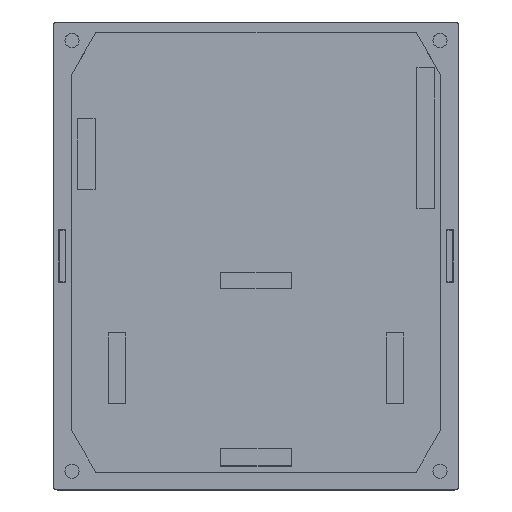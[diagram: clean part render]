
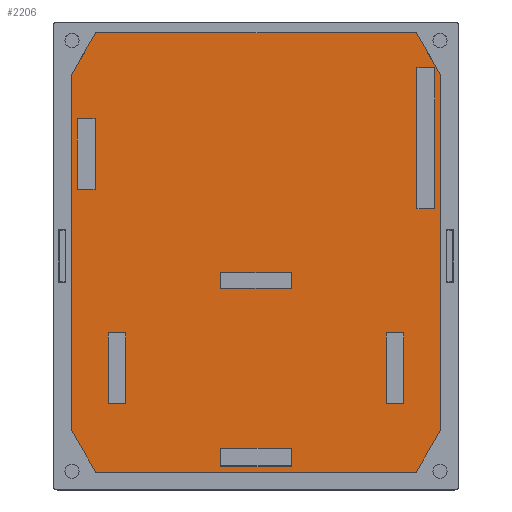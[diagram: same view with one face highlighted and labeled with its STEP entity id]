
A CAD part, top view. The second image highlights one B-rep face of the part: STEP entity #2206.
In plain terms, the highlighted planar face has unit normal (0, 0, 1).
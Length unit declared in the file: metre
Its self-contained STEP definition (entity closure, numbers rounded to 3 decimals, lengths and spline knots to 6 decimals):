
#95=LINE('',#3305,#363);
#103=LINE('',#3322,#371);
#111=LINE('',#3339,#379);
#119=LINE('',#3356,#387);
#127=LINE('',#3373,#395);
#128=LINE('',#3376,#396);
#129=LINE('',#3378,#397);
#130=LINE('',#3380,#398);
#131=LINE('',#3382,#399);
#132=LINE('',#3384,#400);
#133=LINE('',#3386,#401);
#134=LINE('',#3388,#402);
#135=LINE('',#3389,#403);
#136=LINE('',#3392,#404);
#137=LINE('',#3394,#405);
#138=LINE('',#3396,#406);
#139=LINE('',#3397,#407);
#140=LINE('',#3400,#408);
#141=LINE('',#3402,#409);
#142=LINE('',#3404,#410);
#143=LINE('',#3405,#411);
#144=LINE('',#3406,#412);
#145=LINE('',#3407,#413);
#146=LINE('',#3410,#414);
#147=LINE('',#3412,#415);
#148=LINE('',#3414,#416);
#149=LINE('',#3415,#417);
#150=LINE('',#3416,#418);
#151=LINE('',#3417,#419);
#152=LINE('',#3420,#420);
#153=LINE('',#3422,#421);
#154=LINE('',#3424,#422);
#363=VECTOR('',#2645,1.);
#371=VECTOR('',#2655,1.);
#379=VECTOR('',#2665,1.);
#387=VECTOR('',#2675,1.);
#395=VECTOR('',#2685,1.);
#396=VECTOR('',#2686,1.);
#397=VECTOR('',#2687,1.);
#398=VECTOR('',#2688,1.);
#399=VECTOR('',#2689,1.);
#400=VECTOR('',#2690,1.);
#401=VECTOR('',#2691,1.);
#402=VECTOR('',#2692,1.);
#403=VECTOR('',#2693,1.);
#404=VECTOR('',#2694,1.);
#405=VECTOR('',#2695,1.);
#406=VECTOR('',#2696,1.);
#407=VECTOR('',#2697,1.);
#408=VECTOR('',#2698,1.);
#409=VECTOR('',#2699,1.);
#410=VECTOR('',#2700,1.);
#411=VECTOR('',#2701,1.);
#412=VECTOR('',#2702,1.);
#413=VECTOR('',#2703,1.);
#414=VECTOR('',#2704,1.);
#415=VECTOR('',#2705,1.);
#416=VECTOR('',#2706,1.);
#417=VECTOR('',#2707,1.);
#418=VECTOR('',#2708,1.);
#419=VECTOR('',#2709,1.);
#420=VECTOR('',#2710,1.);
#421=VECTOR('',#2711,1.);
#422=VECTOR('',#2712,1.);
#672=ORIENTED_EDGE('',*,*,#1279,.T.);
#673=ORIENTED_EDGE('',*,*,#1280,.T.);
#674=ORIENTED_EDGE('',*,*,#1281,.F.);
#675=ORIENTED_EDGE('',*,*,#1282,.T.);
#676=ORIENTED_EDGE('',*,*,#1283,.F.);
#677=ORIENTED_EDGE('',*,*,#1284,.T.);
#678=ORIENTED_EDGE('',*,*,#1285,.T.);
#679=ORIENTED_EDGE('',*,*,#1286,.T.);
#680=ORIENTED_EDGE('',*,*,#1287,.F.);
#681=ORIENTED_EDGE('',*,*,#1288,.T.);
#682=ORIENTED_EDGE('',*,*,#1289,.T.);
#683=ORIENTED_EDGE('',*,*,#1290,.F.);
#684=ORIENTED_EDGE('',*,*,#1291,.F.);
#685=ORIENTED_EDGE('',*,*,#1292,.T.);
#686=ORIENTED_EDGE('',*,*,#1293,.T.);
#687=ORIENTED_EDGE('',*,*,#1294,.F.);
#688=ORIENTED_EDGE('',*,*,#1263,.F.);
#689=ORIENTED_EDGE('',*,*,#1295,.T.);
#690=ORIENTED_EDGE('',*,*,#1271,.T.);
#691=ORIENTED_EDGE('',*,*,#1296,.F.);
#692=ORIENTED_EDGE('',*,*,#1297,.F.);
#693=ORIENTED_EDGE('',*,*,#1298,.T.);
#694=ORIENTED_EDGE('',*,*,#1299,.T.);
#695=ORIENTED_EDGE('',*,*,#1300,.F.);
#696=ORIENTED_EDGE('',*,*,#1247,.F.);
#697=ORIENTED_EDGE('',*,*,#1301,.T.);
#698=ORIENTED_EDGE('',*,*,#1255,.T.);
#699=ORIENTED_EDGE('',*,*,#1302,.F.);
#700=ORIENTED_EDGE('',*,*,#1303,.F.);
#701=ORIENTED_EDGE('',*,*,#1304,.T.);
#702=ORIENTED_EDGE('',*,*,#1305,.T.);
#703=ORIENTED_EDGE('',*,*,#1306,.F.);
#1247=EDGE_CURVE('',#1550,#1551,#95,.T.);
#1255=EDGE_CURVE('',#1558,#1559,#103,.T.);
#1263=EDGE_CURVE('',#1566,#1567,#111,.T.);
#1271=EDGE_CURVE('',#1574,#1575,#119,.T.);
#1279=EDGE_CURVE('',#1582,#1583,#127,.T.);
#1280=EDGE_CURVE('',#1583,#1584,#128,.T.);
#1281=EDGE_CURVE('',#1585,#1584,#129,.T.);
#1282=EDGE_CURVE('',#1585,#1586,#130,.F.);
#1283=EDGE_CURVE('',#1587,#1586,#131,.T.);
#1284=EDGE_CURVE('',#1587,#1588,#132,.T.);
#1285=EDGE_CURVE('',#1588,#1589,#133,.T.);
#1286=EDGE_CURVE('',#1589,#1582,#134,.F.);
#1287=EDGE_CURVE('',#1590,#1591,#135,.T.);
#1288=EDGE_CURVE('',#1590,#1592,#136,.T.);
#1289=EDGE_CURVE('',#1592,#1593,#137,.T.);
#1290=EDGE_CURVE('',#1591,#1593,#138,.T.);
#1291=EDGE_CURVE('',#1594,#1595,#139,.T.);
#1292=EDGE_CURVE('',#1594,#1596,#140,.T.);
#1293=EDGE_CURVE('',#1596,#1597,#141,.T.);
#1294=EDGE_CURVE('',#1595,#1597,#142,.T.);
#1295=EDGE_CURVE('',#1566,#1574,#143,.T.);
#1296=EDGE_CURVE('',#1567,#1575,#144,.T.);
#1297=EDGE_CURVE('',#1598,#1599,#145,.T.);
#1298=EDGE_CURVE('',#1598,#1600,#146,.T.);
#1299=EDGE_CURVE('',#1600,#1601,#147,.T.);
#1300=EDGE_CURVE('',#1599,#1601,#148,.T.);
#1301=EDGE_CURVE('',#1550,#1558,#149,.T.);
#1302=EDGE_CURVE('',#1551,#1559,#150,.T.);
#1303=EDGE_CURVE('',#1602,#1603,#151,.T.);
#1304=EDGE_CURVE('',#1602,#1604,#152,.T.);
#1305=EDGE_CURVE('',#1604,#1605,#153,.T.);
#1306=EDGE_CURVE('',#1603,#1605,#154,.T.);
#1550=VERTEX_POINT('',#3306);
#1551=VERTEX_POINT('',#3307);
#1558=VERTEX_POINT('',#3323);
#1559=VERTEX_POINT('',#3324);
#1566=VERTEX_POINT('',#3340);
#1567=VERTEX_POINT('',#3341);
#1574=VERTEX_POINT('',#3357);
#1575=VERTEX_POINT('',#3358);
#1582=VERTEX_POINT('',#3374);
#1583=VERTEX_POINT('',#3375);
#1584=VERTEX_POINT('',#3377);
#1585=VERTEX_POINT('',#3379);
#1586=VERTEX_POINT('',#3381);
#1587=VERTEX_POINT('',#3383);
#1588=VERTEX_POINT('',#3385);
#1589=VERTEX_POINT('',#3387);
#1590=VERTEX_POINT('',#3390);
#1591=VERTEX_POINT('',#3391);
#1592=VERTEX_POINT('',#3393);
#1593=VERTEX_POINT('',#3395);
#1594=VERTEX_POINT('',#3398);
#1595=VERTEX_POINT('',#3399);
#1596=VERTEX_POINT('',#3401);
#1597=VERTEX_POINT('',#3403);
#1598=VERTEX_POINT('',#3408);
#1599=VERTEX_POINT('',#3409);
#1600=VERTEX_POINT('',#3411);
#1601=VERTEX_POINT('',#3413);
#1602=VERTEX_POINT('',#3418);
#1603=VERTEX_POINT('',#3419);
#1604=VERTEX_POINT('',#3421);
#1605=VERTEX_POINT('',#3423);
#1750=EDGE_LOOP('',(#672,#673,#674,#675,#676,#677,#678,#679));
#1751=EDGE_LOOP('',(#680,#681,#682,#683));
#1752=EDGE_LOOP('',(#684,#685,#686,#687));
#1753=EDGE_LOOP('',(#688,#689,#690,#691));
#1754=EDGE_LOOP('',(#692,#693,#694,#695));
#1755=EDGE_LOOP('',(#696,#697,#698,#699));
#1756=EDGE_LOOP('',(#700,#701,#702,#703));
#1928=FACE_BOUND('',#1750,.T.);
#1929=FACE_BOUND('',#1751,.T.);
#1930=FACE_BOUND('',#1752,.T.);
#1931=FACE_BOUND('',#1753,.T.);
#1932=FACE_BOUND('',#1754,.T.);
#1933=FACE_BOUND('',#1755,.T.);
#1934=FACE_BOUND('',#1756,.T.);
#2090=PLANE('',#2416);
#2206=ADVANCED_FACE('',(#1928,#1929,#1930,#1931,#1932,#1933,#1934),#2090,
 .T.);
#2416=AXIS2_PLACEMENT_3D('',#3372,#2683,#2684);
#2645=DIRECTION('',(0.,-1.,0.));
#2655=DIRECTION('',(0.,-1.,0.));
#2665=DIRECTION('',(0.,-1.,0.));
#2675=DIRECTION('',(0.,-1.,0.));
#2683=DIRECTION('',(0.,0.,1.));
#2684=DIRECTION('',(1.,0.,0.));
#2685=DIRECTION('',(1.,0.,0.));
#2686=DIRECTION('',(0.5,0.866,0.));
#2687=DIRECTION('',(0.,-1.,0.));
#2688=DIRECTION('',(0.5,-0.866,0.));
#2689=DIRECTION('',(1.,0.,0.));
#2690=DIRECTION('',(-0.5,-0.866,0.));
#2691=DIRECTION('',(0.,-1.,0.));
#2692=DIRECTION('',(-0.5,0.866,0.));
#2693=DIRECTION('',(0.,-1.,0.));
#2694=DIRECTION('',(1.,0.,0.));
#2695=DIRECTION('',(0.,-1.,0.));
#2696=DIRECTION('',(1.,0.,0.));
#2697=DIRECTION('',(0.,-1.,0.));
#2698=DIRECTION('',(1.,0.,0.));
#2699=DIRECTION('',(0.,-1.,0.));
#2700=DIRECTION('',(1.,0.,0.));
#2701=DIRECTION('',(1.,0.,0.));
#2702=DIRECTION('',(1.,0.,0.));
#2703=DIRECTION('',(0.,-1.,0.));
#2704=DIRECTION('',(1.,0.,0.));
#2705=DIRECTION('',(0.,-1.,0.));
#2706=DIRECTION('',(1.,0.,0.));
#2707=DIRECTION('',(1.,0.,0.));
#2708=DIRECTION('',(1.,0.,0.));
#2709=DIRECTION('',(0.,-1.,0.));
#2710=DIRECTION('',(1.,0.,0.));
#2711=DIRECTION('',(0.,-1.,0.));
#2712=DIRECTION('',(1.,0.,0.));
#3305=CARTESIAN_POINT('',(0.045702,0.004506,-0.00254));
#3306=CARTESIAN_POINT('',(0.045702,0.024506,-0.00254));
#3307=CARTESIAN_POINT('',(0.045702,-0.015494,-0.00254));
#3322=CARTESIAN_POINT('',(0.050702,0.004506,-0.00254));
#3323=CARTESIAN_POINT('',(0.050702,0.024506,-0.00254));
#3324=CARTESIAN_POINT('',(0.050702,-0.015494,-0.00254));
#3339=CARTESIAN_POINT('',(0.03695,-0.060794,-0.00254));
#3340=CARTESIAN_POINT('',(0.03695,-0.050794,-0.00254));
#3341=CARTESIAN_POINT('',(0.03695,-0.070794,-0.00254));
#3356=CARTESIAN_POINT('',(0.04195,-0.060794,-0.00254));
#3357=CARTESIAN_POINT('',(0.04195,-0.050794,-0.00254));
#3358=CARTESIAN_POINT('',(0.04195,-0.070794,-0.00254));
#3372=CARTESIAN_POINT('',(0.000002,-0.028919,-0.00254));
#3373=CARTESIAN_POINT('',(0.000002,-0.090344,-0.00254));
#3374=CARTESIAN_POINT('',(-0.045498,-0.090344,-0.00254));
#3375=CARTESIAN_POINT('',(0.045502,-0.090344,-0.00254));
#3376=CARTESIAN_POINT('',(0.060725,-0.063977,-0.00254));
#3377=CARTESIAN_POINT('',(0.052502,-0.07822,-0.00254));
#3378=CARTESIAN_POINT('',(0.052502,-0.027919,-0.00254));
#3379=CARTESIAN_POINT('',(0.052502,0.022382,-0.00254));
#3380=CARTESIAN_POINT('',(0.061591,0.006639,-0.00254));
#3381=CARTESIAN_POINT('',(0.045502,0.034506,-0.00254));
#3382=CARTESIAN_POINT('',(0.000002,0.034506,-0.00254));
#3383=CARTESIAN_POINT('',(-0.045498,0.034506,-0.00254));
#3384=CARTESIAN_POINT('',(-0.061586,0.006639,-0.00254));
#3385=CARTESIAN_POINT('',(-0.052498,0.022382,-0.00254));
#3386=CARTESIAN_POINT('',(-0.052498,-0.027919,-0.00254));
#3387=CARTESIAN_POINT('',(-0.052498,-0.07822,-0.00254));
#3388=CARTESIAN_POINT('',(-0.06072,-0.063977,-0.00254));
#3389=CARTESIAN_POINT('',(-0.01,-0.086044,-0.00254));
#3390=CARTESIAN_POINT('',(-0.01,-0.083544,-0.00254));
#3391=CARTESIAN_POINT('',(-0.01,-0.088544,-0.00254));
#3392=CARTESIAN_POINT('',(0.,-0.083544,-0.00254));
#3393=CARTESIAN_POINT('',(0.01,-0.083544,-0.00254));
#3394=CARTESIAN_POINT('',(0.01,-0.086044,-0.00254));
#3395=CARTESIAN_POINT('',(0.01,-0.088544,-0.00254));
#3396=CARTESIAN_POINT('',(0.,-0.088544,-0.00254));
#3397=CARTESIAN_POINT('',(-0.04195,-0.060794,-0.00254));
#3398=CARTESIAN_POINT('',(-0.04195,-0.050794,-0.00254));
#3399=CARTESIAN_POINT('',(-0.04195,-0.070794,-0.00254));
#3400=CARTESIAN_POINT('',(-0.03945,-0.050794,-0.00254));
#3401=CARTESIAN_POINT('',(-0.03695,-0.050794,-0.00254));
#3402=CARTESIAN_POINT('',(-0.03695,-0.060794,-0.00254));
#3403=CARTESIAN_POINT('',(-0.03695,-0.070794,-0.00254));
#3404=CARTESIAN_POINT('',(-0.03945,-0.070794,-0.00254));
#3405=CARTESIAN_POINT('',(0.03945,-0.050794,-0.00254));
#3406=CARTESIAN_POINT('',(0.03945,-0.070794,-0.00254));
#3407=CARTESIAN_POINT('',(-0.009998,-0.035869,-0.00254));
#3408=CARTESIAN_POINT('',(-0.009998,-0.033694,-0.00254));
#3409=CARTESIAN_POINT('',(-0.009998,-0.038044,-0.00254));
#3410=CARTESIAN_POINT('',(0.000002,-0.033694,-0.00254));
#3411=CARTESIAN_POINT('',(0.010002,-0.033694,-0.00254));
#3412=CARTESIAN_POINT('',(0.010002,-0.035869,-0.00254));
#3413=CARTESIAN_POINT('',(0.010002,-0.038044,-0.00254));
#3414=CARTESIAN_POINT('',(0.000002,-0.038044,-0.00254));
#3415=CARTESIAN_POINT('',(0.048202,0.024506,-0.00254));
#3416=CARTESIAN_POINT('',(0.048202,-0.015494,-0.00254));
#3417=CARTESIAN_POINT('',(-0.050698,0.000006,-0.00254));
#3418=CARTESIAN_POINT('',(-0.050698,0.010006,-0.00254));
#3419=CARTESIAN_POINT('',(-0.050698,-0.009994,-0.00254));
#3420=CARTESIAN_POINT('',(-0.048198,0.010006,-0.00254));
#3421=CARTESIAN_POINT('',(-0.045698,0.010006,-0.00254));
#3422=CARTESIAN_POINT('',(-0.045698,0.000006,-0.00254));
#3423=CARTESIAN_POINT('',(-0.045698,-0.009994,-0.00254));
#3424=CARTESIAN_POINT('',(-0.048198,-0.009994,-0.00254));
